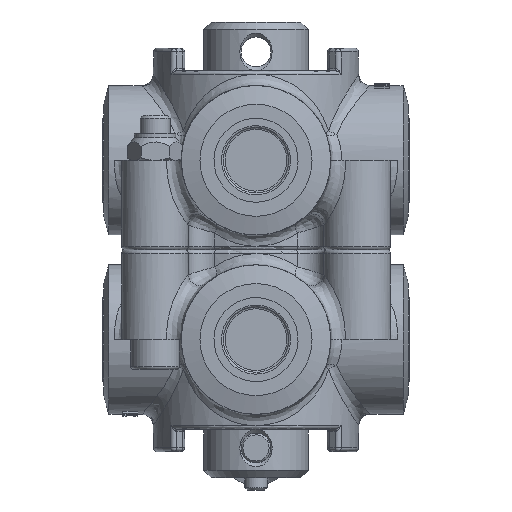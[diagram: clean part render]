
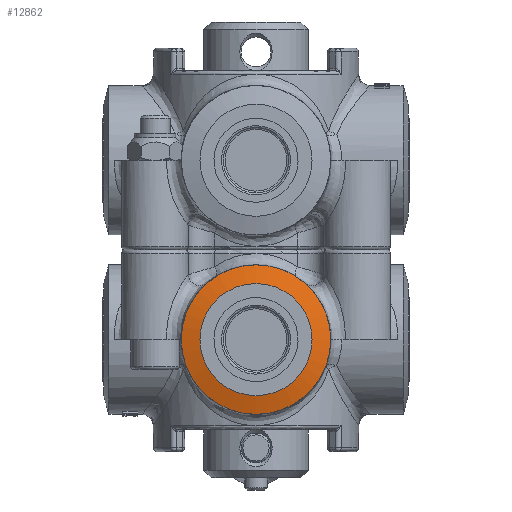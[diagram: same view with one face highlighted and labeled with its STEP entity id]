
A CAD part, left-side view. The second image highlights one B-rep face of the part: STEP entity #12862.
In plain terms, the highlighted conical face has half-angle 75 degrees and reference radius 17 mm.
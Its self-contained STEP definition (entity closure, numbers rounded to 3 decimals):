
#12835=CARTESIAN_POINT('',(-40.196,0.,0.));
#12836=DIRECTION('',(1.0,0.,0.));
#12837=DIRECTION('',(0.0,1.0,0.0));
#12838=AXIS2_PLACEMENT_3D('',#12835,#12836,#12837);
#12839=CONICAL_SURFACE('',#12838,17.0,75.);
#12840=CARTESIAN_POINT('',(-40.732,-15.,0.));
#12841=VERTEX_POINT('',#12840);
#12842=CARTESIAN_POINT('',(-40.732,0.,0.));
#12843=DIRECTION('',(1.0,0.0,0.0));
#12844=DIRECTION('',(0.0,1.0,0.0));
#12845=AXIS2_PLACEMENT_3D('',#12842,#12843,#12844);
#12846=CIRCLE('',#12845,15.0);
#12847=EDGE_CURVE('',#12841,#12841,#12846,.T.);
#12848=ORIENTED_EDGE('',*,*,#12847,.T.);
#12849=EDGE_LOOP('',(#12848));
#12850=FACE_OUTER_BOUND('',#12849,.T.);
#12851=CARTESIAN_POINT('',(-39.392,-20.,0.));
#12852=VERTEX_POINT('',#12851);
#12853=CARTESIAN_POINT('',(-39.392,0.,0.));
#12854=DIRECTION('',(-1.0,0.0,0.0));
#12855=DIRECTION('',(0.0,1.0,0.0));
#12856=AXIS2_PLACEMENT_3D('',#12853,#12854,#12855);
#12857=CIRCLE('',#12856,20.0);
#12858=EDGE_CURVE('',#12852,#12852,#12857,.T.);
#12859=ORIENTED_EDGE('',*,*,#12858,.T.);
#12860=EDGE_LOOP('',(#12859));
#12861=FACE_BOUND('',#12860,.T.);
#12862=ADVANCED_FACE('',(#12850,#12861),#12839,.T.);
